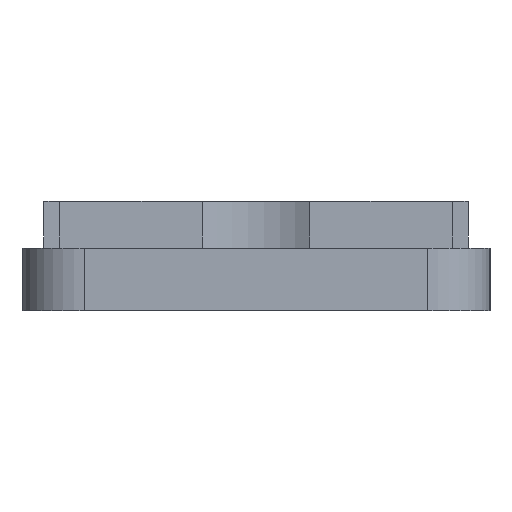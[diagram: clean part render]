
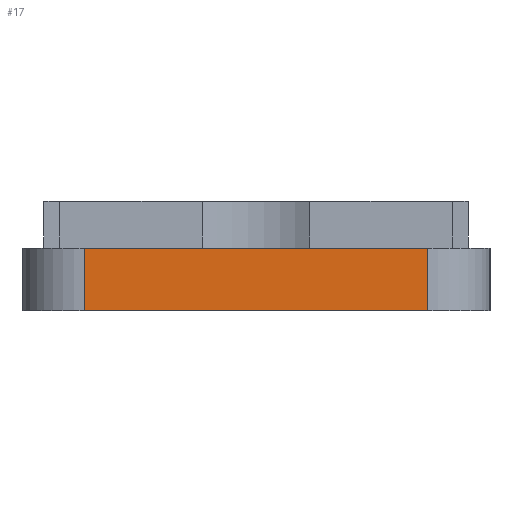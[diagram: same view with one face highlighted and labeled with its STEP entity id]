
A CAD part, left-side view. The second image highlights one B-rep face of the part: STEP entity #17.
In plain terms, the highlighted planar face has unit normal (-1, 0, 0).
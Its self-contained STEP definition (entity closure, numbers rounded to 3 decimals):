
#17 = ADVANCED_FACE('',(#18),#32,.F.);
#18 = FACE_BOUND('',#19,.F.);
#19 = EDGE_LOOP('',(#20,#55,#83,#111));
#20 = ORIENTED_EDGE('',*,*,#21,.F.);
#21 = EDGE_CURVE('',#22,#24,#26,.T.);
#22 = VERTEX_POINT('',#23);
#23 = CARTESIAN_POINT('',(-28.,-33.5,-12.4));
#24 = VERTEX_POINT('',#25);
#25 = CARTESIAN_POINT('',(-28.,-22.5,-12.4));
#26 = SURFACE_CURVE('',#27,(#31,#43),.PCURVE_S1.);
#27 = LINE('',#28,#29);
#28 = CARTESIAN_POINT('',(-28.,-33.5,-12.4));
#29 = VECTOR('',#30,1.);
#30 = DIRECTION('',(0.,1.,0.));
#31 = PCURVE('',#32,#37);
#32 = PLANE('',#33);
#33 = AXIS2_PLACEMENT_3D('',#34,#35,#36);
#34 = CARTESIAN_POINT('',(-28.,-35.5,-14.4));
#35 = DIRECTION('',(1.,0.,0.));
#36 = DIRECTION('',(0.,0.,1.));
#37 = DEFINITIONAL_REPRESENTATION('',(#38),#42);
#38 = LINE('',#39,#40);
#39 = CARTESIAN_POINT('',(2.,-2.));
#40 = VECTOR('',#41,1.);
#41 = DIRECTION('',(0.,-1.));
#42 = ( GEOMETRIC_REPRESENTATION_CONTEXT(2) 
PARAMETRIC_REPRESENTATION_CONTEXT() REPRESENTATION_CONTEXT('2D SPACE',''
  ) );
#43 = PCURVE('',#44,#49);
#44 = PLANE('',#45);
#45 = AXIS2_PLACEMENT_3D('',#46,#47,#48);
#46 = CARTESIAN_POINT('',(-28.,-35.5,-12.4));
#47 = DIRECTION('',(0.,0.,1.));
#48 = DIRECTION('',(1.,0.,0.));
#49 = DEFINITIONAL_REPRESENTATION('',(#50),#54);
#50 = LINE('',#51,#52);
#51 = CARTESIAN_POINT('',(0.,2.));
#52 = VECTOR('',#53,1.);
#53 = DIRECTION('',(0.,1.));
#54 = ( GEOMETRIC_REPRESENTATION_CONTEXT(2) 
PARAMETRIC_REPRESENTATION_CONTEXT() REPRESENTATION_CONTEXT('2D SPACE',''
  ) );
#55 = ORIENTED_EDGE('',*,*,#56,.F.);
#56 = EDGE_CURVE('',#57,#22,#59,.T.);
#57 = VERTEX_POINT('',#58);
#58 = CARTESIAN_POINT('',(-28.,-33.5,-14.4));
#59 = SURFACE_CURVE('',#60,(#64,#71),.PCURVE_S1.);
#60 = LINE('',#61,#62);
#61 = CARTESIAN_POINT('',(-28.,-33.5,-14.4));
#62 = VECTOR('',#63,1.);
#63 = DIRECTION('',(0.,0.,1.));
#64 = PCURVE('',#32,#65);
#65 = DEFINITIONAL_REPRESENTATION('',(#66),#70);
#66 = LINE('',#67,#68);
#67 = CARTESIAN_POINT('',(0.,-2.));
#68 = VECTOR('',#69,1.);
#69 = DIRECTION('',(1.,0.));
#70 = ( GEOMETRIC_REPRESENTATION_CONTEXT(2) 
PARAMETRIC_REPRESENTATION_CONTEXT() REPRESENTATION_CONTEXT('2D SPACE',''
  ) );
#71 = PCURVE('',#72,#77);
#72 = CYLINDRICAL_SURFACE('',#73,2.);
#73 = AXIS2_PLACEMENT_3D('',#74,#75,#76);
#74 = CARTESIAN_POINT('',(-26.,-33.5,-14.4));
#75 = DIRECTION('',(0.,0.,1.));
#76 = DIRECTION('',(-1.,-0.,0.));
#77 = DEFINITIONAL_REPRESENTATION('',(#78),#82);
#78 = LINE('',#79,#80);
#79 = CARTESIAN_POINT('',(0.,0.));
#80 = VECTOR('',#81,1.);
#81 = DIRECTION('',(0.,1.));
#82 = ( GEOMETRIC_REPRESENTATION_CONTEXT(2) 
PARAMETRIC_REPRESENTATION_CONTEXT() REPRESENTATION_CONTEXT('2D SPACE',''
  ) );
#83 = ORIENTED_EDGE('',*,*,#84,.T.);
#84 = EDGE_CURVE('',#57,#85,#87,.T.);
#85 = VERTEX_POINT('',#86);
#86 = CARTESIAN_POINT('',(-28.,-22.5,-14.4));
#87 = SURFACE_CURVE('',#88,(#92,#99),.PCURVE_S1.);
#88 = LINE('',#89,#90);
#89 = CARTESIAN_POINT('',(-28.,-35.5,-14.4));
#90 = VECTOR('',#91,1.);
#91 = DIRECTION('',(0.,1.,0.));
#92 = PCURVE('',#32,#93);
#93 = DEFINITIONAL_REPRESENTATION('',(#94),#98);
#94 = LINE('',#95,#96);
#95 = CARTESIAN_POINT('',(0.,0.));
#96 = VECTOR('',#97,1.);
#97 = DIRECTION('',(0.,-1.));
#98 = ( GEOMETRIC_REPRESENTATION_CONTEXT(2) 
PARAMETRIC_REPRESENTATION_CONTEXT() REPRESENTATION_CONTEXT('2D SPACE',''
  ) );
#99 = PCURVE('',#100,#105);
#100 = PLANE('',#101);
#101 = AXIS2_PLACEMENT_3D('',#102,#103,#104);
#102 = CARTESIAN_POINT('',(-28.,-35.5,-14.4));
#103 = DIRECTION('',(0.,0.,1.));
#104 = DIRECTION('',(1.,0.,0.));
#105 = DEFINITIONAL_REPRESENTATION('',(#106),#110);
#106 = LINE('',#107,#108);
#107 = CARTESIAN_POINT('',(0.,0.));
#108 = VECTOR('',#109,1.);
#109 = DIRECTION('',(0.,1.));
#110 = ( GEOMETRIC_REPRESENTATION_CONTEXT(2) 
PARAMETRIC_REPRESENTATION_CONTEXT() REPRESENTATION_CONTEXT('2D SPACE',''
  ) );
#111 = ORIENTED_EDGE('',*,*,#112,.T.);
#112 = EDGE_CURVE('',#85,#24,#113,.T.);
#113 = SURFACE_CURVE('',#114,(#118,#125),.PCURVE_S1.);
#114 = LINE('',#115,#116);
#115 = CARTESIAN_POINT('',(-28.,-22.5,-14.4));
#116 = VECTOR('',#117,1.);
#117 = DIRECTION('',(0.,0.,1.));
#118 = PCURVE('',#32,#119);
#119 = DEFINITIONAL_REPRESENTATION('',(#120),#124);
#120 = LINE('',#121,#122);
#121 = CARTESIAN_POINT('',(0.,-13.));
#122 = VECTOR('',#123,1.);
#123 = DIRECTION('',(1.,0.));
#124 = ( GEOMETRIC_REPRESENTATION_CONTEXT(2) 
PARAMETRIC_REPRESENTATION_CONTEXT() REPRESENTATION_CONTEXT('2D SPACE',''
  ) );
#125 = PCURVE('',#126,#131);
#126 = CYLINDRICAL_SURFACE('',#127,2.);
#127 = AXIS2_PLACEMENT_3D('',#128,#129,#130);
#128 = CARTESIAN_POINT('',(-26.,-22.5,-14.4));
#129 = DIRECTION('',(0.,0.,1.));
#130 = DIRECTION('',(-1.,-0.,0.));
#131 = DEFINITIONAL_REPRESENTATION('',(#132),#136);
#132 = LINE('',#133,#134);
#133 = CARTESIAN_POINT('',(-0.,0.));
#134 = VECTOR('',#135,1.);
#135 = DIRECTION('',(-0.,1.));
#136 = ( GEOMETRIC_REPRESENTATION_CONTEXT(2) 
PARAMETRIC_REPRESENTATION_CONTEXT() REPRESENTATION_CONTEXT('2D SPACE',''
  ) );
